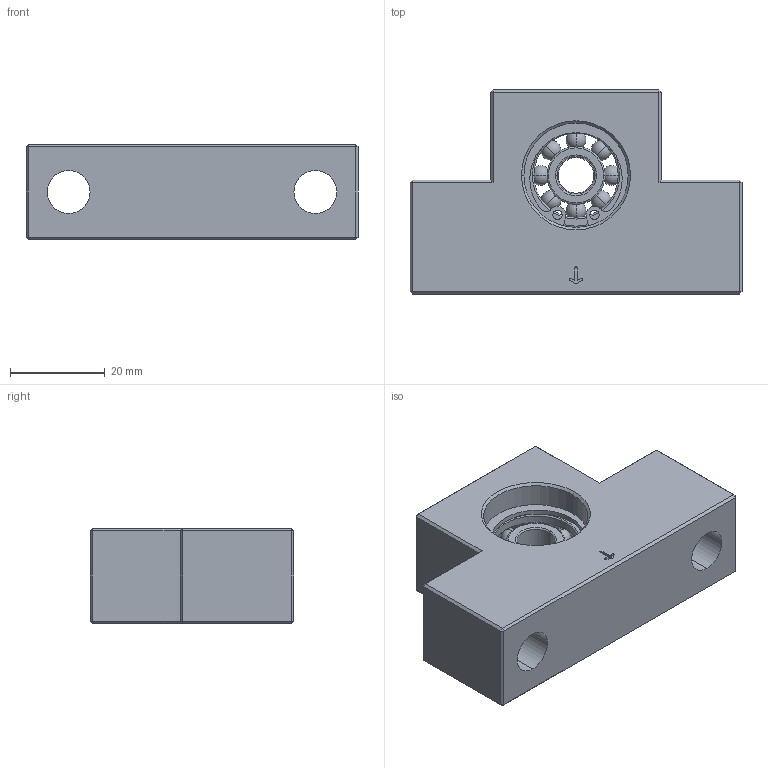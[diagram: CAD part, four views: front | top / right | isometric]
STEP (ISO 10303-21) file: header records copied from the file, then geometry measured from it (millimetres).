
FILE_DESCRIPTION (( 'STEP AP203' ), '1' );
FILE_NAME ('GTN10.STEP', '2013-10-29T06:50:07', ( 'user' ), ( '' ), 'SwSTEP 2.0', 'SolidWorks 2013', '' );
FILE_SCHEMA (( 'CONFIG_CONTROL_DESIGN' ));
Length unit declared in the file: millimetre
Products named in the file (1): GTN10
Bounding box: 70 x 43 x 20 mm (x, y, z)
Surface area: 12456.9 mm2 (no closed solid volume)
Topology: 0 solids, 5 shells, 159 faces, 513 edges, 340 vertices
Faces by surface type: plane 64, cylinder 47, torus 24, sphere 16, cone 8
Entity records: 5830 total; most frequent: CARTESIAN_POINT 1605, DIRECTION 876, ORIENTED_EDGE 829, EDGE_CURVE 465, AXIS2_PLACEMENT_3D 347, VERTEX_POINT 308, CIRCLE 187, VECTOR 182
